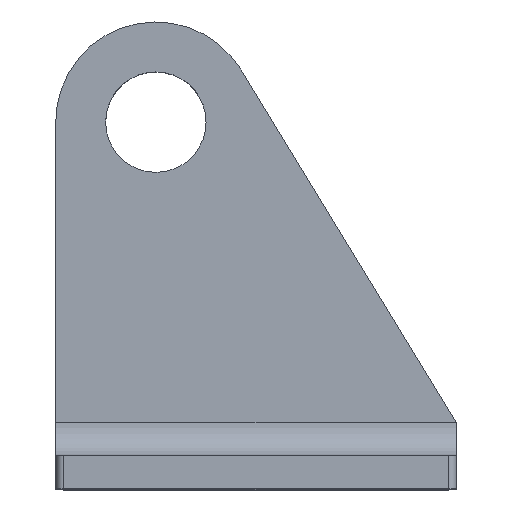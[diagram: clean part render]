
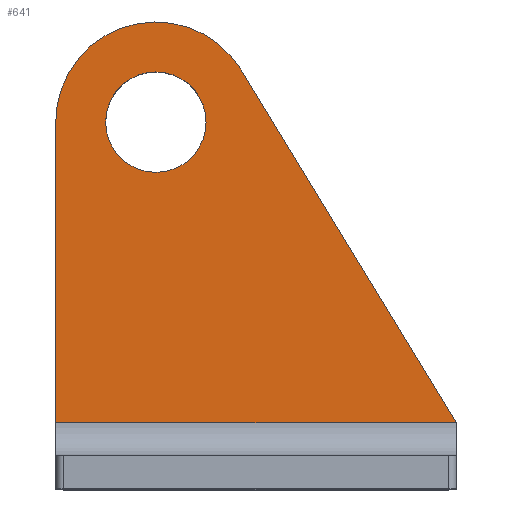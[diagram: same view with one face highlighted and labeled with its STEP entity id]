
A CAD part, top view. The second image highlights one B-rep face of the part: STEP entity #641.
In plain terms, the highlighted planar face has unit normal (0, 0, 1) as drawn and (1, 0, 0) by its records, which use the part's own axes.
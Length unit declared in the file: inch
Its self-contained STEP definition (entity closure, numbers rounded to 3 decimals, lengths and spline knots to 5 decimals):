
#106=CARTESIAN_POINT('',(0.125,0.,0.));
#107=DIRECTION('',(1.,0.,0.));
#108=DIRECTION('',(0.,0.,1.));
#109=AXIS2_PLACEMENT_3D('',#106,#107,#108);
#114=CARTESIAN_POINT('',(0.125,0.,0.));
#115=DIRECTION('',(1.,0.,0.));
#116=DIRECTION('',(0.,0.,-1.));
#117=AXIS2_PLACEMENT_3D('',#114,#115,#116);
#122=DIRECTION('',(0.,0.,-1.));
#123=VECTOR('',#122,1.5);
#124=CARTESIAN_POINT('',(0.125,-1.125,0.375));
#125=LINE('',#124,#123);
#129=DIRECTION('',(0.,1.,0.));
#130=VECTOR('',#129,1.125);
#131=CARTESIAN_POINT('',(0.125,-1.125,0.375));
#132=LINE('',#131,#130);
#136=CARTESIAN_POINT('',(0.125,0.,0.));
#137=DIRECTION('',(-1.,0.,0.));
#138=DIRECTION('',(0.,0.,1.));
#139=AXIS2_PLACEMENT_3D('',#136,#137,#138);
#144=DIRECTION('',(0.,-0.854,-0.521));
#145=VECTOR('',#144,1.54616);
#146=CARTESIAN_POINT('',(0.125,0.19519,-0.32019));
#147=LINE('',#146,#145);
#500=CARTESIAN_POINT('',(0.125,0.,0.188));
#501=CARTESIAN_POINT('',(0.125,0.,-0.188));
#502=VERTEX_POINT('',#500);
#503=VERTEX_POINT('',#501);
#504=CARTESIAN_POINT('',(0.125,0.,0.375));
#505=CARTESIAN_POINT('',(0.125,0.19519,-0.32019));
#506=VERTEX_POINT('',#504);
#507=VERTEX_POINT('',#505);
#556=CARTESIAN_POINT('',(0.125,-1.125,0.375));
#557=CARTESIAN_POINT('',(0.125,-1.125,-1.125));
#558=VERTEX_POINT('',#556);
#559=VERTEX_POINT('',#557);
#622=CARTESIAN_POINT('',(0.125,0.,0.));
#623=DIRECTION('',(-1.,0.,0.));
#624=DIRECTION('',(0.,0.,1.));
#625=AXIS2_PLACEMENT_3D('',#622,#623,#624);
#626=PLANE('',#625);
#628=ORIENTED_EDGE('',*,*,#627,.F.);
#630=ORIENTED_EDGE('',*,*,#629,.T.);
#632=ORIENTED_EDGE('',*,*,#631,.T.);
#634=ORIENTED_EDGE('',*,*,#633,.T.);
#635=EDGE_LOOP('',(#628,#630,#632,#634));
#636=FACE_OUTER_BOUND('',#635,.F.);
#637=ORIENTED_EDGE('',*,*,#602,.T.);
#638=ORIENTED_EDGE('',*,*,#616,.T.);
#639=EDGE_LOOP('',(#637,#638));
#640=FACE_BOUND('',#639,.F.);
#641=ADVANCED_FACE('',(#636,#640),#626,.F.);
#110=CIRCLE('',#109,0.188);
#118=CIRCLE('',#117,0.188);
#140=CIRCLE('',#139,0.375);
#602=EDGE_CURVE('',#502,#503,#110,.T.);
#616=EDGE_CURVE('',#503,#502,#118,.T.);
#627=EDGE_CURVE('',#558,#559,#125,.T.);
#629=EDGE_CURVE('',#558,#506,#132,.T.);
#631=EDGE_CURVE('',#506,#507,#140,.T.);
#633=EDGE_CURVE('',#507,#559,#147,.T.);
